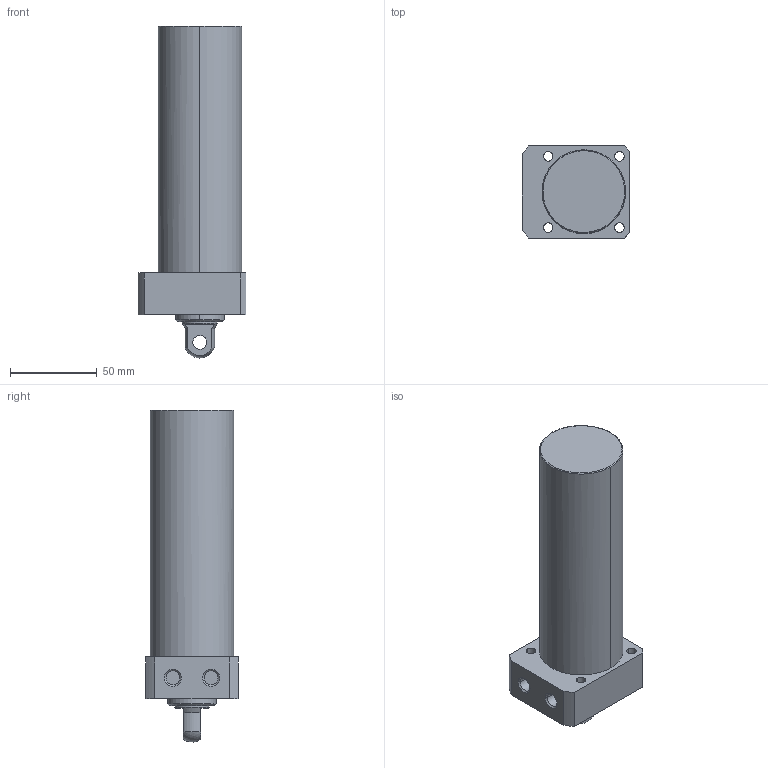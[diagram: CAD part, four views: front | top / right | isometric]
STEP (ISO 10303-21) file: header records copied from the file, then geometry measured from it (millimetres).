
FILE_DESCRIPTION((' '),'2;1');
FILE_NAME( 'TLLR-048CP-115.STEP.stp', '2025-10-24T16:34:40', (' '), ('--- Datakit www.datakit.com---'), ' Datakit CrossCadWare V2024.1 Dec 21 2023', 'Mastercam 2025', ' ');
FILE_SCHEMA(('AUTOMOTIVE_DESIGN { 1 0 10303 214 1 1 1 1 }'));
Length unit declared in the file: millimetre
Products named in the file (1): TLLR-048CP-115
Bounding box: 62 x 53 x 190.94 mm (x, y, z)
Volume: 336444.8 mm3; surface area: 36819.6 mm2
Topology: 1 solids, 1 shells, 57 faces, 164 edges, 116 vertices
Faces by surface type: cylinder 28, plane 18, cone 8, torus 2, sphere 1
Entity records: 2006 total; most frequent: DIRECTION 378, CARTESIAN_POINT 350, ORIENTED_EDGE 328, EDGE_CURVE 164, AXIS2_PLACEMENT_3D 160, VERTEX_POINT 116, CIRCLE 102, EDGE_LOOP 74
